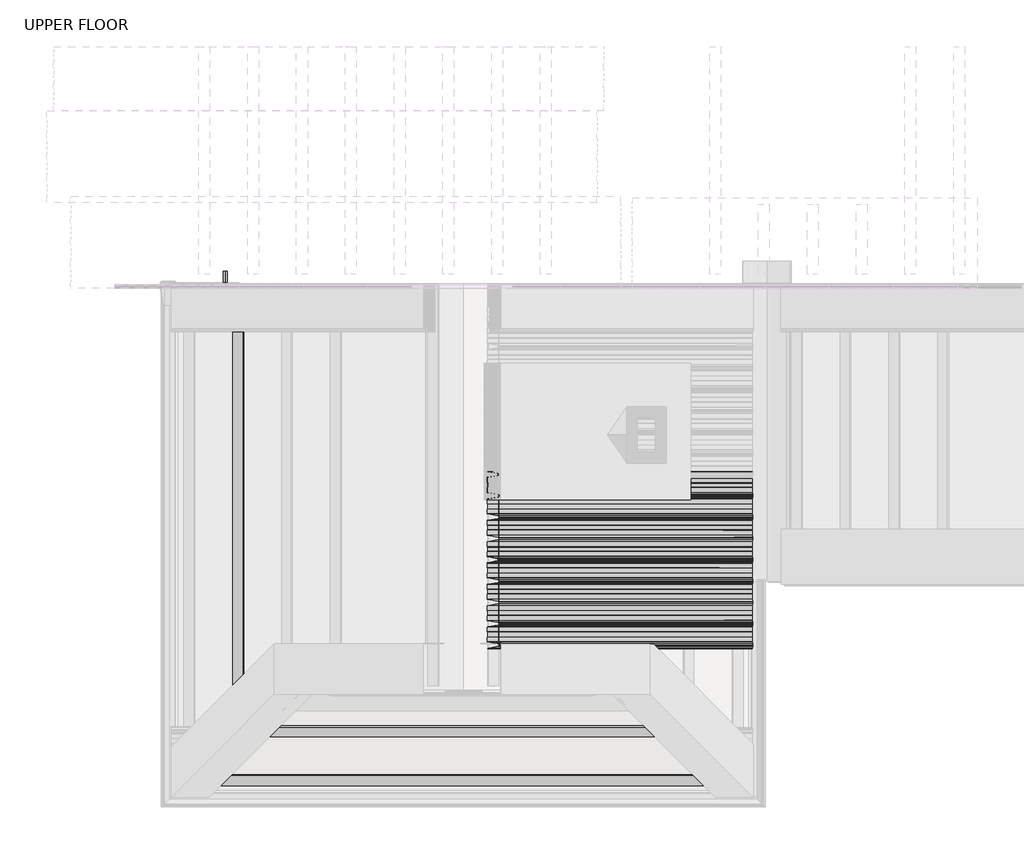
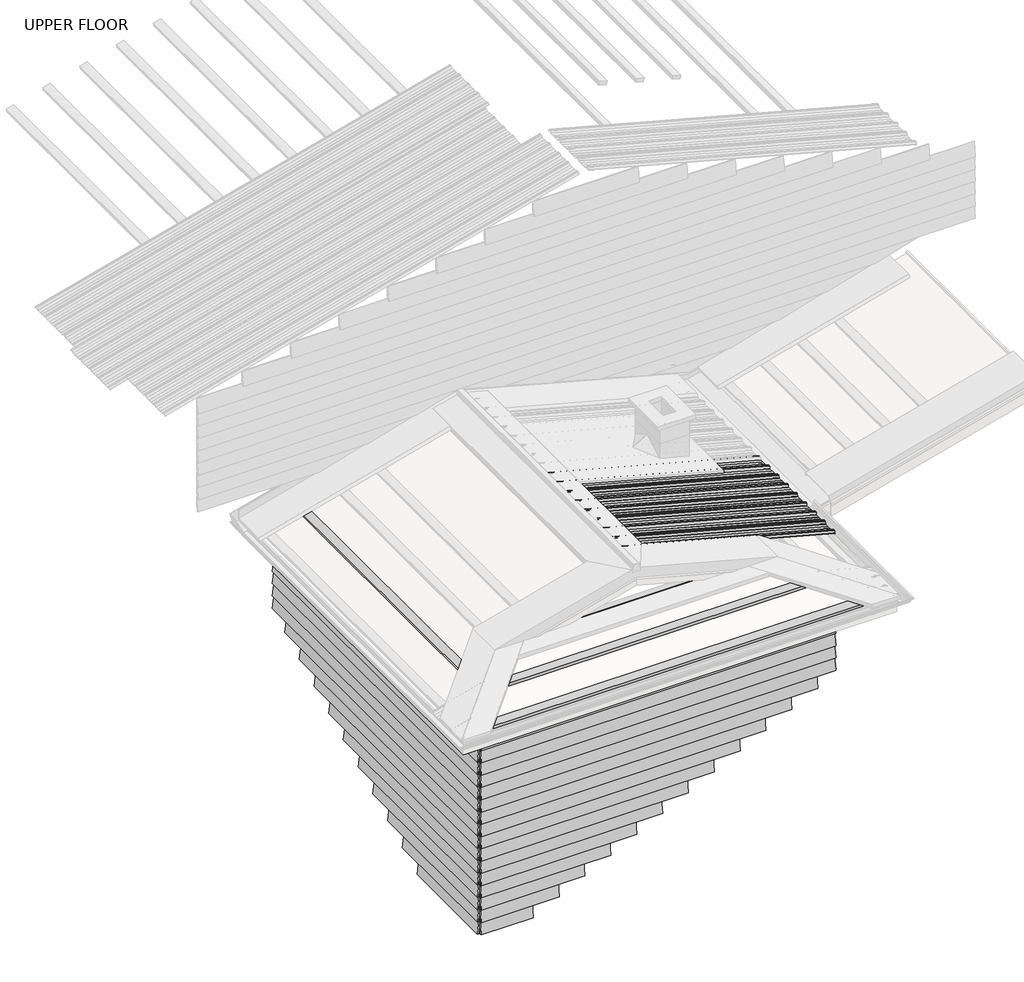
# One storey, part 3 of 8: 40 beams.
"""IFC4 building model written with IfcOpenShell, lengths in millimetres."""

from ifc_helpers import new_model, si_unit, point, frame, frame_2d, origin, place, context, project, spatial, polyline, circle_curve, trimmed, segment, composite_curve, outline, extrude, transform, mapped, element, save
from components import beam_653a1676, beam_0986cd51, beam_6d1ce91c, beam_7c082024, beam_45646a06, beam_4b6b203c, beam_21b49bcd, beam_dbdee737, beam_b49289d9, beam_2cd5924f, beam_da656821, beam_9fa9cc63, beam_07ff9b1a, beam_5f6dbec4, beam_d979e58d, beam_1a6c5b2a, beam_2f0a0f4a, beam_f72c105a, beam_7e5a3d0c, beam_7df44f64, beam_31db28c5, beam_f3d7bc39, beam_6b37ad4d, beam_d161b6fd, timber_gauged_nz_90_x_45_22b23b48, timber_gauged_nz_90_x_45_07e0cd1f, timber_gauged_nz_90_x_45_b5b7cf38

model = new_model("IFC4")

# Units and contexts
model_context = context("Model", 3, world=origin())
ifc_project = project(units=[si_unit("LENGTHUNIT", "METRE", prefix="MILLI")], contexts=[model_context])

# Site, building, storey
site = spatial("IfcSite", under=ifc_project)
building = spatial("IfcBuilding", under=site)
storey = spatial("IfcBuildingStorey", under=building, Name="UPPER FLOOR", Elevation=2700.0)

# Beams
placement = place(None, origin())
element("IfcBeam", 1, ObjectType="3D_Metalcraft T-Rib : 3D_Metalcraft T-Rib", at=placement, inside=storey, context=model_context, shape_type="SweptSolid", body=[
    extrude(outline(composite_curve([segment(polyline([(0.0, 0.0), (41.1765297, -17.232464)]), True, "CONTINUOUS"), segment(trimmed(circle_curve(frame_2d((38.7817106, -20.9335667)), 4.4083239), [point((41.1765297, -17.232464))], [point((43.0853462, -19.9785591))], False, "CARTESIAN"), True, "CONTINUOUS"), segment(polyline([(43.0853462, -19.9785591), (48.0501249, -45.9497705)]), True, "CONTINUOUS"), segment(trimmed(circle_curve(frame_2d((49.8317805, -45.6091809)), 1.8139178), [point((48.0501249, -45.9497705))], [point((48.771325, -47.0808235))], True, "CARTESIAN"), True, "CONTINUOUS"), segment(trimmed(circle_curve(frame_2d((68.2146871, -24.1039222)), 30.0995402), [point((48.771325, -47.0808235))], [point((56.5999877, -51.8722689))], True, "CARTESIAN"), True, "CONTINUOUS"), segment(trimmed(circle_curve(frame_2d((68.2255997, -24.1084891)), 30.0995402), [point((56.5999877, -51.8722689))], [point((65.5078144, -54.0850794))], True, "CARTESIAN"), True, "CONTINUOUS"), segment(trimmed(circle_curve(frame_2d((65.8116479, -52.2967889)), 1.8139178), [point((65.5078144, -54.0850794))], [point((66.8196386, -53.8048513))], True, "CARTESIAN"), True, "CONTINUOUS"), segment(polyline([(66.8196386, -53.8048513), (88.1574709, -39.5426187)]), True, "CONTINUOUS"), segment(trimmed(circle_curve(frame_2d((88.43532, -39.9583106)), 0.5), [point((88.1574709, -39.5426187))], [point((88.7131691, -40.3740027))], False, "CARTESIAN"), True, "CONTINUOUS"), segment(polyline([(88.7131691, -40.3740027), (67.1225767, -54.8051806)]), True, "CONTINUOUS"), segment(trimmed(circle_curve(frame_2d((66.0571023, -53.2111166)), 1.9173616), [point((67.1225767, -54.8051806))], [point((65.8470629, -55.116939))], False, "CARTESIAN"), True, "CONTINUOUS"), segment(trimmed(circle_curve(frame_2d((68.2255997, -24.1084891)), 31.0995402), [point((65.8470629, -55.116939))], [point((56.2139301, -52.7947436))], False, "CARTESIAN"), True, "CONTINUOUS"), segment(trimmed(circle_curve(frame_2d((68.2146871, -24.1039222)), 31.0995402), [point((56.2139301, -52.7947436))], [point((47.7982512, -47.5634735))], False, "CARTESIAN"), True, "CONTINUOUS"), segment(trimmed(circle_curve(frame_2d((49.0082552, -46.0761383)), 1.9173616), [point((47.7982512, -47.5634735))], [point((47.1249957, -46.436151))], False, "CARTESIAN"), True, "CONTINUOUS"), segment(polyline([(47.1249957, -46.436151), (42.1060781, -20.1817343)]), True, "CONTINUOUS"), segment(trimmed(circle_curve(frame_2d((38.7817106, -20.9335667)), 3.4083239), [point((42.1060781, -20.1817343))], [point((40.7028446, -18.1182665))], True, "CARTESIAN"), True, "CONTINUOUS"), segment(polyline([(40.7028446, -18.1182665), (-0.2008129, -1.0), (-4.6628868, -1.0), (-39.4345071, 13.551996), (-42.5665219, 16.730138), (-81.2568943, 32.92214)]), True, "CONTINUOUS"), segment(trimmed(circle_curve(frame_2d((-81.9136301, 29.5776865)), 3.4083239), [point((-81.2568943, 32.92214))], [point((-83.9015601, 32.3462251))], True, "CARTESIAN"), True, "CONTINUOUS"), segment(polyline([(-83.9015601, 32.3462251), (-107.045629, 16.8767016)]), True, "CONTINUOUS"), segment(trimmed(circle_curve(frame_2d((-109.2669983, 20.3574483)), 4.1291741), [point((-107.045629, 16.8767016))], [point((-109.5750829, 16.2397836))], False, "CARTESIAN"), True, "CONTINUOUS"), segment(trimmed(circle_curve(frame_2d((-107.0445899, 49.2424527)), 33.0995402), [point((-109.5750829, 16.2397836))], [point((-119.8283746, 18.7112488))], False, "CARTESIAN"), True, "CONTINUOUS"), segment(trimmed(circle_curve(frame_2d((-107.0555025, 49.2470196)), 33.0995402), [point((-119.8283746, 18.7112488))], [point((-128.7856734, 24.279456))], False, "CARTESIAN"), True, "CONTINUOUS"), segment(trimmed(circle_curve(frame_2d((-126.0690895, 27.3891587)), 4.1291741), [point((-128.7856734, 24.279456))], [point((-130.1074961, 26.5281413))], False, "CARTESIAN"), True, "CONTINUOUS"), segment(polyline([(-130.1074961, 26.5281413), (-135.3344879, 53.8710132)]), True, "CONTINUOUS"), segment(trimmed(circle_curve(frame_2d((-138.7017641, 53.3436396)), 3.4083239), [point((-135.3344879, 53.8710132))], [point((-136.78063, 56.1589398))], True, "CARTESIAN"), True, "CONTINUOUS"), segment(polyline([(-136.78063, 56.1589398), (-175.4710024, 72.3509418), (-179.9330763, 72.3509418), (-214.7046967, 86.9029378), (-217.8367115, 90.0810798), (-256.5270839, 106.2730818)]), True, "CONTINUOUS"), segment(trimmed(circle_curve(frame_2d((-257.1838197, 102.9286282)), 3.4083239), [point((-256.5270839, 106.2730818))], [point((-259.1717496, 105.6971669))], True, "CARTESIAN"), True, "CONTINUOUS"), segment(polyline([(-259.1717496, 105.6971669), (-282.3158186, 90.2276434)]), True, "CONTINUOUS"), segment(trimmed(circle_curve(frame_2d((-284.5371879, 93.7083901)), 4.1291741), [point((-282.3158186, 90.2276434))], [point((-284.8452724, 89.5907254))], False, "CARTESIAN"), True, "CONTINUOUS"), segment(trimmed(circle_curve(frame_2d((-282.3147794, 122.5933945)), 33.0995402), [point((-284.8452724, 89.5907254))], [point((-295.0985641, 92.0621906))], False, "CARTESIAN"), True, "CONTINUOUS"), segment(trimmed(circle_curve(frame_2d((-282.325692, 122.5979614)), 33.0995402), [point((-295.0985641, 92.0621906))], [point((-304.0558629, 97.6303978))], False, "CARTESIAN"), True, "CONTINUOUS"), segment(trimmed(circle_curve(frame_2d((-301.3392791, 100.7401005)), 4.1291741), [point((-304.0558629, 97.6303978))], [point((-305.3776856, 99.8790831))], False, "CARTESIAN"), True, "CONTINUOUS"), segment(polyline([(-305.3776856, 99.8790831), (-310.6046774, 127.221955)]), True, "CONTINUOUS"), segment(trimmed(circle_curve(frame_2d((-313.9719536, 126.6945814)), 3.4083239), [point((-310.6046774, 127.221955))], [point((-312.0508195, 129.5098816))], True, "CARTESIAN"), True, "CONTINUOUS"), segment(polyline([(-312.0508195, 129.5098816), (-350.7411919, 145.7018835), (-355.2032658, 145.7018836), (-389.9748862, 160.2538796), (-393.106901, 163.4320216), (-431.7972734, 179.6240236)]), True, "CONTINUOUS"), segment(trimmed(circle_curve(frame_2d((-432.4540092, 176.27957)), 3.4083239), [point((-431.7972734, 179.6240236))], [point((-434.4419392, 179.0481087))], True, "CARTESIAN"), True, "CONTINUOUS"), segment(polyline([(-434.4419392, 179.0481087), (-457.5860081, 163.5785852)]), True, "CONTINUOUS"), segment(trimmed(circle_curve(frame_2d((-459.8073774, 167.0593319)), 4.1291741), [point((-457.5860081, 163.5785852))], [point((-460.1154619, 162.9416672))], False, "CARTESIAN"), True, "CONTINUOUS"), segment(trimmed(circle_curve(frame_2d((-457.5849689, 195.9443363)), 33.0995402), [point((-460.1154619, 162.9416672))], [point((-470.3687537, 165.4131324))], False, "CARTESIAN"), True, "CONTINUOUS"), segment(trimmed(circle_curve(frame_2d((-457.5958815, 195.9489032)), 33.0995402), [point((-470.3687537, 165.4131324))], [point((-479.3260524, 170.9813396))], False, "CARTESIAN"), True, "CONTINUOUS"), segment(trimmed(circle_curve(frame_2d((-476.6094686, 174.0910423)), 4.1291741), [point((-479.3260524, 170.9813396))], [point((-480.6478751, 173.2300249))], False, "CARTESIAN"), True, "CONTINUOUS"), segment(polyline([(-480.6478751, 173.2300249), (-485.874867, 200.5728968)]), True, "CONTINUOUS"), segment(trimmed(circle_curve(frame_2d((-489.2421431, 200.0455231)), 3.4083239), [point((-485.874867, 200.5728968))], [point((-487.3210091, 202.8608234))], True, "CARTESIAN"), True, "CONTINUOUS"), segment(polyline([(-487.3210091, 202.8608234), (-526.0113815, 219.0528253), (-530.4734554, 219.0528254), (-565.2450757, 233.6048214), (-568.3770905, 236.7829634), (-607.0674629, 252.9749654)]), True, "CONTINUOUS"), segment(trimmed(circle_curve(frame_2d((-607.7241987, 249.6305118)), 3.4083239), [point((-607.0674629, 252.9749654))], [point((-609.7121287, 252.3990505))], True, "CARTESIAN"), True, "CONTINUOUS"), segment(polyline([(-609.7121287, 252.3990505), (-632.8561976, 236.929527)]), True, "CONTINUOUS"), segment(trimmed(circle_curve(frame_2d((-635.0775669, 240.4102737)), 4.1291741), [point((-632.8561976, 236.929527))], [point((-635.3856515, 236.292609))], False, "CARTESIAN"), True, "CONTINUOUS"), segment(trimmed(circle_curve(frame_2d((-632.8551585, 269.2952781)), 33.0995402), [point((-635.3856515, 236.292609))], [point((-645.6389433, 238.7640742))], False, "CARTESIAN"), True, "CONTINUOUS"), segment(trimmed(circle_curve(frame_2d((-632.8660711, 269.299845)), 33.0995402), [point((-645.6389433, 238.7640742))], [point((-654.596242, 244.3322814))], False, "CARTESIAN"), True, "CONTINUOUS"), segment(trimmed(circle_curve(frame_2d((-651.8796581, 247.441984)), 4.1291741), [point((-654.596242, 244.3322814))], [point((-655.9180648, 246.5809668))], False, "CARTESIAN"), True, "CONTINUOUS"), segment(polyline([(-655.9180648, 246.5809668), (-660.7374633, 271.7916806)]), True, "CONTINUOUS"), segment(trimmed(circle_curve(frame_2d((-664.0618307, 271.0398477)), 3.4083239), [point((-660.7374633, 271.7916806))], [point((-662.1406965, 273.855148))], True, "CARTESIAN"), True, "CONTINUOUS"), segment(polyline([(-662.1406965, 273.855148), (-665.4188428, 275.227059)]), True, "CONTINUOUS"), segment(trimmed(circle_curve(frame_2d((-665.225814, 275.6882964)), 0.5), [point((-665.4188428, 275.227059))], [point((-665.0327852, 276.1495337))], False, "CARTESIAN"), True, "CONTINUOUS"), segment(polyline([(-665.0327852, 276.1495337), (-661.6670116, 274.7409504)]), True, "CONTINUOUS"), segment(trimmed(circle_curve(frame_2d((-664.0618307, 271.0398477)), 4.4083239), [point((-661.6670116, 274.7409504))], [point((-659.7581951, 271.994856))], False, "CARTESIAN"), True, "CONTINUOUS"), segment(polyline([(-659.7581951, 271.994856), (-654.9379765, 246.7798514)]), True, "CONTINUOUS"), segment(trimmed(circle_curve(frame_2d((-651.8796581, 247.441984)), 3.1291741), [point((-654.9379765, 246.7798514))], [point((-653.9389937, 245.0859562))], True, "CARTESIAN"), True, "CONTINUOUS"), segment(trimmed(circle_curve(frame_2d((-632.8660711, 269.299845)), 32.0995402), [point((-653.9389937, 245.0859562))], [point((-645.2528857, 239.6865489))], True, "CARTESIAN"), True, "CONTINUOUS"), segment(trimmed(circle_curve(frame_2d((-632.8551585, 269.2952781)), 32.0995402), [point((-645.2528857, 239.6865489))], [point((-635.3101766, 237.2897571))], True, "CARTESIAN"), True, "CONTINUOUS"), segment(trimmed(circle_curve(frame_2d((-635.0775669, 240.4102737)), 3.1291741), [point((-635.3101766, 237.2897571))], [point((-633.4024833, 237.7672024))], True, "CARTESIAN"), True, "CONTINUOUS"), segment(polyline([(-633.4024833, 237.7672024), (-610.0647921, 253.3661432)]), True, "CONTINUOUS"), segment(trimmed(circle_curve(frame_2d((-607.7241987, 249.6305118)), 4.4083239), [point((-610.0647921, 253.3661432))], [point((-606.7690327, 253.9341123))], False, "CARTESIAN"), True, "CONTINUOUS"), segment(polyline([(-606.7690327, 253.9341123), (-567.8057882, 237.6279128), (-564.6737734, 234.4497707), (-530.2726425, 220.0528253), (-525.8105686, 220.0528254), (-486.847324, 203.7466258)]), True, "CONTINUOUS"), segment(trimmed(circle_curve(frame_2d((-489.2421431, 200.0455231)), 4.4083239), [point((-486.847324, 203.7466258))], [point((-484.9385075, 201.0005307))], False, "CARTESIAN"), True, "CONTINUOUS"), segment(polyline([(-484.9385075, 201.0005307), (-479.6677869, 173.4289097)]), True, "CONTINUOUS"), segment(trimmed(circle_curve(frame_2d((-476.6094686, 174.0910423)), 3.1291741), [point((-479.6677869, 173.4289097))], [point((-478.6688042, 171.7350144))], True, "CARTESIAN"), True, "CONTINUOUS"), segment(trimmed(circle_curve(frame_2d((-457.5958815, 195.9489032)), 32.0995402), [point((-478.6688042, 171.7350144))], [point((-469.9826961, 166.3356071))], True, "CARTESIAN"), True, "CONTINUOUS"), segment(trimmed(circle_curve(frame_2d((-457.5849689, 195.9443363)), 32.0995402), [point((-469.9826961, 166.3356071))], [point((-460.0399871, 163.9388154))], True, "CARTESIAN"), True, "CONTINUOUS"), segment(trimmed(circle_curve(frame_2d((-459.8073774, 167.0593319)), 3.1291741), [point((-460.0399871, 163.9388154))], [point((-458.1322938, 164.4162606))], True, "CARTESIAN"), True, "CONTINUOUS"), segment(polyline([(-458.1322938, 164.4162606), (-434.7946026, 180.0152014)]), True, "CONTINUOUS"), segment(trimmed(circle_curve(frame_2d((-432.4540092, 176.27957)), 4.4083239), [point((-434.7946026, 180.0152014))], [point((-431.4988431, 180.5831705))], False, "CARTESIAN"), True, "CONTINUOUS"), segment(polyline([(-431.4988431, 180.5831705), (-392.5355987, 164.276971), (-389.4035839, 161.0988289), (-355.002453, 146.7018835), (-350.5403791, 146.7018836), (-311.5771345, 130.395684)]), True, "CONTINUOUS"), segment(trimmed(circle_curve(frame_2d((-313.9719536, 126.6945814)), 4.4083239), [point((-311.5771345, 130.395684))], [point((-309.6683179, 127.649589))], False, "CARTESIAN"), True, "CONTINUOUS"), segment(polyline([(-309.6683179, 127.649589), (-304.3975974, 100.0779679)]), True, "CONTINUOUS"), segment(trimmed(circle_curve(frame_2d((-301.3392791, 100.7401005)), 3.1291741), [point((-304.3975974, 100.0779679))], [point((-303.3986147, 98.3840726))], True, "CARTESIAN"), True, "CONTINUOUS"), segment(trimmed(circle_curve(frame_2d((-282.325692, 122.5979614)), 32.0995402), [point((-303.3986147, 98.3840726))], [point((-294.7125065, 92.9846653))], True, "CARTESIAN"), True, "CONTINUOUS"), segment(trimmed(circle_curve(frame_2d((-282.3147794, 122.5933945)), 32.0995402), [point((-294.7125065, 92.9846653))], [point((-284.7697976, 90.5878736))], True, "CARTESIAN"), True, "CONTINUOUS"), segment(trimmed(circle_curve(frame_2d((-284.5371879, 93.7083901)), 3.1291741), [point((-284.7697976, 90.5878736))], [point((-282.8621043, 91.0653188))], True, "CARTESIAN"), True, "CONTINUOUS"), segment(polyline([(-282.8621043, 91.0653188), (-259.5244131, 106.6642596)]), True, "CONTINUOUS"), segment(trimmed(circle_curve(frame_2d((-257.1838197, 102.9286282)), 4.4083239), [point((-259.5244131, 106.6642596))], [point((-256.2286536, 107.2322287))], False, "CARTESIAN"), True, "CONTINUOUS"), segment(polyline([(-256.2286536, 107.2322287), (-217.2654091, 90.9260292), (-214.1333944, 87.7478871), (-179.7322635, 73.3509417), (-175.2701895, 73.3509418), (-136.306945, 57.0447423)]), True, "CONTINUOUS"), segment(trimmed(circle_curve(frame_2d((-138.7017641, 53.3436396)), 4.4083239), [point((-136.306945, 57.0447423))], [point((-134.3981284, 54.2986472))], False, "CARTESIAN"), True, "CONTINUOUS"), segment(polyline([(-134.3981284, 54.2986472), (-129.1274079, 26.7270261)]), True, "CONTINUOUS"), segment(trimmed(circle_curve(frame_2d((-126.0690895, 27.3891587)), 3.1291741), [point((-129.1274079, 26.7270261))], [point((-128.1284251, 25.0331308))], True, "CARTESIAN"), True, "CONTINUOUS"), segment(trimmed(circle_curve(frame_2d((-107.0555025, 49.2470196)), 32.0995402), [point((-128.1284251, 25.0331308))], [point((-119.442317, 19.6337235))], True, "CARTESIAN"), True, "CONTINUOUS"), segment(trimmed(circle_curve(frame_2d((-107.0445899, 49.2424527)), 32.0995402), [point((-119.442317, 19.6337235))], [point((-109.4996081, 17.2369318))], True, "CARTESIAN"), True, "CONTINUOUS"), segment(trimmed(circle_curve(frame_2d((-109.2669983, 20.3574483)), 3.1291741), [point((-109.4996081, 17.2369318))], [point((-107.5919148, 17.714377))], True, "CARTESIAN"), True, "CONTINUOUS"), segment(polyline([(-107.5919148, 17.714377), (-84.2542235, 33.3133178)]), True, "CONTINUOUS"), segment(trimmed(circle_curve(frame_2d((-81.9136301, 29.5776865)), 4.4083239), [point((-84.2542235, 33.3133178))], [point((-80.9584641, 33.8812869))], False, "CARTESIAN"), True, "CONTINUOUS"), segment(polyline([(-80.9584641, 33.8812869), (-41.9952196, 17.5750874), (-38.8632048, 14.3969453), (-4.4620739, -1e-07), (0.0, 0.0)]), True, "CONTINUOUS")], self_intersect=False)), frame((-11190.2847188, -24608.4241842, 3266.5991596), z_axis=(-0.9659258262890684, 0.0, 0.25881904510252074), x_axis=(-0.09991905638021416, 0.9224746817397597, -0.3729029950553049)), (0.0, 0.0, 1.0), 2590.2025973),
])
element("IfcBeam", 2, ObjectType="3D_Metalcraft T-Rib : 3D_Metalcraft T-Rib", at=placement, inside=storey, context=model_context, shape_type="SweptSolid", body=[
    extrude(outline(composite_curve([segment(polyline([(0.0, 0.0), (41.1765297, -17.232464)]), True, "CONTINUOUS"), segment(trimmed(circle_curve(frame_2d((38.7817106, -20.9335667)), 4.4083239), [point((41.1765297, -17.232464))], [point((43.0853462, -19.9785591))], False, "CARTESIAN"), True, "CONTINUOUS"), segment(polyline([(43.0853462, -19.9785591), (48.0501249, -45.9497705)]), True, "CONTINUOUS"), segment(trimmed(circle_curve(frame_2d((49.8317805, -45.6091809)), 1.8139178), [point((48.0501249, -45.9497705))], [point((48.771325, -47.0808235))], True, "CARTESIAN"), True, "CONTINUOUS"), segment(trimmed(circle_curve(frame_2d((68.2146871, -24.1039222)), 30.0995402), [point((48.771325, -47.0808235))], [point((56.5999877, -51.8722689))], True, "CARTESIAN"), True, "CONTINUOUS"), segment(trimmed(circle_curve(frame_2d((68.2255997, -24.1084891)), 30.0995402), [point((56.5999877, -51.8722689))], [point((65.5078144, -54.0850794))], True, "CARTESIAN"), True, "CONTINUOUS"), segment(trimmed(circle_curve(frame_2d((65.8116479, -52.2967889)), 1.8139178), [point((65.5078144, -54.0850794))], [point((66.8196386, -53.8048513))], True, "CARTESIAN"), True, "CONTINUOUS"), segment(polyline([(66.8196386, -53.8048513), (88.1574709, -39.5426187)]), True, "CONTINUOUS"), segment(trimmed(circle_curve(frame_2d((88.43532, -39.9583106)), 0.5), [point((88.1574709, -39.5426187))], [point((88.7131691, -40.3740027))], False, "CARTESIAN"), True, "CONTINUOUS"), segment(polyline([(88.7131691, -40.3740027), (67.1225767, -54.8051806)]), True, "CONTINUOUS"), segment(trimmed(circle_curve(frame_2d((66.0571023, -53.2111166)), 1.9173616), [point((67.1225767, -54.8051806))], [point((65.8470629, -55.116939))], False, "CARTESIAN"), True, "CONTINUOUS"), segment(trimmed(circle_curve(frame_2d((68.2255997, -24.1084891)), 31.0995402), [point((65.8470629, -55.116939))], [point((56.2139301, -52.7947436))], False, "CARTESIAN"), True, "CONTINUOUS"), segment(trimmed(circle_curve(frame_2d((68.2146871, -24.1039222)), 31.0995402), [point((56.2139301, -52.7947436))], [point((47.7982512, -47.5634735))], False, "CARTESIAN"), True, "CONTINUOUS"), segment(trimmed(circle_curve(frame_2d((49.0082552, -46.0761383)), 1.9173616), [point((47.7982512, -47.5634735))], [point((47.1249957, -46.436151))], False, "CARTESIAN"), True, "CONTINUOUS"), segment(polyline([(47.1249957, -46.436151), (42.1060781, -20.1817343)]), True, "CONTINUOUS"), segment(trimmed(circle_curve(frame_2d((38.7817106, -20.9335667)), 3.4083239), [point((42.1060781, -20.1817343))], [point((40.7028446, -18.1182665))], True, "CARTESIAN"), True, "CONTINUOUS"), segment(polyline([(40.7028446, -18.1182665), (-0.2008129, -1.0), (-4.6628868, -1.0), (-39.4345071, 13.551996), (-42.5665219, 16.730138), (-81.2568943, 32.92214)]), True, "CONTINUOUS"), segment(trimmed(circle_curve(frame_2d((-81.9136301, 29.5776865)), 3.4083239), [point((-81.2568943, 32.92214))], [point((-83.9015601, 32.3462251))], True, "CARTESIAN"), True, "CONTINUOUS"), segment(polyline([(-83.9015601, 32.3462251), (-107.045629, 16.8767016)]), True, "CONTINUOUS"), segment(trimmed(circle_curve(frame_2d((-109.2669983, 20.3574483)), 4.1291741), [point((-107.045629, 16.8767016))], [point((-109.5750829, 16.2397836))], False, "CARTESIAN"), True, "CONTINUOUS"), segment(trimmed(circle_curve(frame_2d((-107.0445899, 49.2424527)), 33.0995402), [point((-109.5750829, 16.2397836))], [point((-119.8283746, 18.7112488))], False, "CARTESIAN"), True, "CONTINUOUS"), segment(trimmed(circle_curve(frame_2d((-107.0555025, 49.2470196)), 33.0995402), [point((-119.8283746, 18.7112488))], [point((-128.7856734, 24.279456))], False, "CARTESIAN"), True, "CONTINUOUS"), segment(trimmed(circle_curve(frame_2d((-126.0690895, 27.3891587)), 4.1291741), [point((-128.7856734, 24.279456))], [point((-130.1074961, 26.5281413))], False, "CARTESIAN"), True, "CONTINUOUS"), segment(polyline([(-130.1074961, 26.5281413), (-135.3344879, 53.8710132)]), True, "CONTINUOUS"), segment(trimmed(circle_curve(frame_2d((-138.7017641, 53.3436396)), 3.4083239), [point((-135.3344879, 53.8710132))], [point((-136.78063, 56.1589398))], True, "CARTESIAN"), True, "CONTINUOUS"), segment(polyline([(-136.78063, 56.1589398), (-175.4710024, 72.3509418), (-179.9330763, 72.3509418), (-214.7046967, 86.9029378), (-217.8367115, 90.0810798), (-256.5270839, 106.2730818)]), True, "CONTINUOUS"), segment(trimmed(circle_curve(frame_2d((-257.1838197, 102.9286282)), 3.4083239), [point((-256.5270839, 106.2730818))], [point((-259.1717496, 105.6971669))], True, "CARTESIAN"), True, "CONTINUOUS"), segment(polyline([(-259.1717496, 105.6971669), (-282.3158186, 90.2276434)]), True, "CONTINUOUS"), segment(trimmed(circle_curve(frame_2d((-284.5371879, 93.7083901)), 4.1291741), [point((-282.3158186, 90.2276434))], [point((-284.8452724, 89.5907254))], False, "CARTESIAN"), True, "CONTINUOUS"), segment(trimmed(circle_curve(frame_2d((-282.3147794, 122.5933945)), 33.0995402), [point((-284.8452724, 89.5907254))], [point((-295.0985641, 92.0621906))], False, "CARTESIAN"), True, "CONTINUOUS"), segment(trimmed(circle_curve(frame_2d((-282.325692, 122.5979614)), 33.0995402), [point((-295.0985641, 92.0621906))], [point((-304.0558629, 97.6303978))], False, "CARTESIAN"), True, "CONTINUOUS"), segment(trimmed(circle_curve(frame_2d((-301.3392791, 100.7401005)), 4.1291741), [point((-304.0558629, 97.6303978))], [point((-305.3776856, 99.8790831))], False, "CARTESIAN"), True, "CONTINUOUS"), segment(polyline([(-305.3776856, 99.8790831), (-310.6046774, 127.221955)]), True, "CONTINUOUS"), segment(trimmed(circle_curve(frame_2d((-313.9719536, 126.6945814)), 3.4083239), [point((-310.6046774, 127.221955))], [point((-312.0508195, 129.5098816))], True, "CARTESIAN"), True, "CONTINUOUS"), segment(polyline([(-312.0508195, 129.5098816), (-350.7411919, 145.7018835), (-355.2032658, 145.7018836), (-389.9748862, 160.2538796), (-393.106901, 163.4320216), (-431.7972734, 179.6240236)]), True, "CONTINUOUS"), segment(trimmed(circle_curve(frame_2d((-432.4540092, 176.27957)), 3.4083239), [point((-431.7972734, 179.6240236))], [point((-434.4419392, 179.0481087))], True, "CARTESIAN"), True, "CONTINUOUS"), segment(polyline([(-434.4419392, 179.0481087), (-457.5860081, 163.5785852)]), True, "CONTINUOUS"), segment(trimmed(circle_curve(frame_2d((-459.8073774, 167.0593319)), 4.1291741), [point((-457.5860081, 163.5785852))], [point((-460.1154619, 162.9416672))], False, "CARTESIAN"), True, "CONTINUOUS"), segment(trimmed(circle_curve(frame_2d((-457.5849689, 195.9443363)), 33.0995402), [point((-460.1154619, 162.9416672))], [point((-470.3687537, 165.4131324))], False, "CARTESIAN"), True, "CONTINUOUS"), segment(trimmed(circle_curve(frame_2d((-457.5958815, 195.9489032)), 33.0995402), [point((-470.3687537, 165.4131324))], [point((-479.3260524, 170.9813396))], False, "CARTESIAN"), True, "CONTINUOUS"), segment(trimmed(circle_curve(frame_2d((-476.6094686, 174.0910423)), 4.1291741), [point((-479.3260524, 170.9813396))], [point((-480.6478751, 173.2300249))], False, "CARTESIAN"), True, "CONTINUOUS"), segment(polyline([(-480.6478751, 173.2300249), (-485.874867, 200.5728968)]), True, "CONTINUOUS"), segment(trimmed(circle_curve(frame_2d((-489.2421431, 200.0455231)), 3.4083239), [point((-485.874867, 200.5728968))], [point((-487.3210091, 202.8608234))], True, "CARTESIAN"), True, "CONTINUOUS"), segment(polyline([(-487.3210091, 202.8608234), (-526.0113815, 219.0528253), (-530.4734554, 219.0528254), (-565.2450757, 233.6048214), (-568.3770905, 236.7829634), (-607.0674629, 252.9749654)]), True, "CONTINUOUS"), segment(trimmed(circle_curve(frame_2d((-607.7241987, 249.6305118)), 3.4083239), [point((-607.0674629, 252.9749654))], [point((-609.7121287, 252.3990505))], True, "CARTESIAN"), True, "CONTINUOUS"), segment(polyline([(-609.7121287, 252.3990505), (-632.8561976, 236.929527)]), True, "CONTINUOUS"), segment(trimmed(circle_curve(frame_2d((-635.0775669, 240.4102737)), 4.1291741), [point((-632.8561976, 236.929527))], [point((-635.3856515, 236.292609))], False, "CARTESIAN"), True, "CONTINUOUS"), segment(trimmed(circle_curve(frame_2d((-632.8551585, 269.2952781)), 33.0995402), [point((-635.3856515, 236.292609))], [point((-645.6389433, 238.7640742))], False, "CARTESIAN"), True, "CONTINUOUS"), segment(trimmed(circle_curve(frame_2d((-632.8660711, 269.299845)), 33.0995402), [point((-645.6389433, 238.7640742))], [point((-654.596242, 244.3322814))], False, "CARTESIAN"), True, "CONTINUOUS"), segment(trimmed(circle_curve(frame_2d((-651.8796581, 247.441984)), 4.1291741), [point((-654.596242, 244.3322814))], [point((-655.9180648, 246.5809668))], False, "CARTESIAN"), True, "CONTINUOUS"), segment(polyline([(-655.9180648, 246.5809668), (-660.7374633, 271.7916806)]), True, "CONTINUOUS"), segment(trimmed(circle_curve(frame_2d((-664.0618307, 271.0398477)), 3.4083239), [point((-660.7374633, 271.7916806))], [point((-662.1406965, 273.855148))], True, "CARTESIAN"), True, "CONTINUOUS"), segment(polyline([(-662.1406965, 273.855148), (-665.4188428, 275.227059)]), True, "CONTINUOUS"), segment(trimmed(circle_curve(frame_2d((-665.225814, 275.6882964)), 0.5), [point((-665.4188428, 275.227059))], [point((-665.0327852, 276.1495337))], False, "CARTESIAN"), True, "CONTINUOUS"), segment(polyline([(-665.0327852, 276.1495337), (-661.6670116, 274.7409504)]), True, "CONTINUOUS"), segment(trimmed(circle_curve(frame_2d((-664.0618307, 271.0398477)), 4.4083239), [point((-661.6670116, 274.7409504))], [point((-659.7581951, 271.994856))], False, "CARTESIAN"), True, "CONTINUOUS"), segment(polyline([(-659.7581951, 271.994856), (-654.9379765, 246.7798514)]), True, "CONTINUOUS"), segment(trimmed(circle_curve(frame_2d((-651.8796581, 247.441984)), 3.1291741), [point((-654.9379765, 246.7798514))], [point((-653.9389937, 245.0859562))], True, "CARTESIAN"), True, "CONTINUOUS"), segment(trimmed(circle_curve(frame_2d((-632.8660711, 269.299845)), 32.0995402), [point((-653.9389937, 245.0859562))], [point((-645.2528857, 239.6865489))], True, "CARTESIAN"), True, "CONTINUOUS"), segment(trimmed(circle_curve(frame_2d((-632.8551585, 269.2952781)), 32.0995402), [point((-645.2528857, 239.6865489))], [point((-635.3101766, 237.2897571))], True, "CARTESIAN"), True, "CONTINUOUS"), segment(trimmed(circle_curve(frame_2d((-635.0775669, 240.4102737)), 3.1291741), [point((-635.3101766, 237.2897571))], [point((-633.4024833, 237.7672024))], True, "CARTESIAN"), True, "CONTINUOUS"), segment(polyline([(-633.4024833, 237.7672024), (-610.0647921, 253.3661432)]), True, "CONTINUOUS"), segment(trimmed(circle_curve(frame_2d((-607.7241987, 249.6305118)), 4.4083239), [point((-610.0647921, 253.3661432))], [point((-606.7690327, 253.9341123))], False, "CARTESIAN"), True, "CONTINUOUS"), segment(polyline([(-606.7690327, 253.9341123), (-567.8057882, 237.6279128), (-564.6737734, 234.4497707), (-530.2726425, 220.0528253), (-525.8105686, 220.0528254), (-486.847324, 203.7466258)]), True, "CONTINUOUS"), segment(trimmed(circle_curve(frame_2d((-489.2421431, 200.0455231)), 4.4083239), [point((-486.847324, 203.7466258))], [point((-484.9385075, 201.0005307))], False, "CARTESIAN"), True, "CONTINUOUS"), segment(polyline([(-484.9385075, 201.0005307), (-479.6677869, 173.4289097)]), True, "CONTINUOUS"), segment(trimmed(circle_curve(frame_2d((-476.6094686, 174.0910423)), 3.1291741), [point((-479.6677869, 173.4289097))], [point((-478.6688042, 171.7350144))], True, "CARTESIAN"), True, "CONTINUOUS"), segment(trimmed(circle_curve(frame_2d((-457.5958815, 195.9489032)), 32.0995402), [point((-478.6688042, 171.7350144))], [point((-469.9826961, 166.3356071))], True, "CARTESIAN"), True, "CONTINUOUS"), segment(trimmed(circle_curve(frame_2d((-457.5849689, 195.9443363)), 32.0995402), [point((-469.9826961, 166.3356071))], [point((-460.0399871, 163.9388154))], True, "CARTESIAN"), True, "CONTINUOUS"), segment(trimmed(circle_curve(frame_2d((-459.8073774, 167.0593319)), 3.1291741), [point((-460.0399871, 163.9388154))], [point((-458.1322938, 164.4162606))], True, "CARTESIAN"), True, "CONTINUOUS"), segment(polyline([(-458.1322938, 164.4162606), (-434.7946026, 180.0152014)]), True, "CONTINUOUS"), segment(trimmed(circle_curve(frame_2d((-432.4540092, 176.27957)), 4.4083239), [point((-434.7946026, 180.0152014))], [point((-431.4988431, 180.5831705))], False, "CARTESIAN"), True, "CONTINUOUS"), segment(polyline([(-431.4988431, 180.5831705), (-392.5355987, 164.276971), (-389.4035839, 161.0988289), (-355.002453, 146.7018835), (-350.5403791, 146.7018836), (-311.5771345, 130.395684)]), True, "CONTINUOUS"), segment(trimmed(circle_curve(frame_2d((-313.9719536, 126.6945814)), 4.4083239), [point((-311.5771345, 130.395684))], [point((-309.6683179, 127.649589))], False, "CARTESIAN"), True, "CONTINUOUS"), segment(polyline([(-309.6683179, 127.649589), (-304.3975974, 100.0779679)]), True, "CONTINUOUS"), segment(trimmed(circle_curve(frame_2d((-301.3392791, 100.7401005)), 3.1291741), [point((-304.3975974, 100.0779679))], [point((-303.3986147, 98.3840726))], True, "CARTESIAN"), True, "CONTINUOUS"), segment(trimmed(circle_curve(frame_2d((-282.325692, 122.5979614)), 32.0995402), [point((-303.3986147, 98.3840726))], [point((-294.7125065, 92.9846653))], True, "CARTESIAN"), True, "CONTINUOUS"), segment(trimmed(circle_curve(frame_2d((-282.3147794, 122.5933945)), 32.0995402), [point((-294.7125065, 92.9846653))], [point((-284.7697976, 90.5878736))], True, "CARTESIAN"), True, "CONTINUOUS"), segment(trimmed(circle_curve(frame_2d((-284.5371879, 93.7083901)), 3.1291741), [point((-284.7697976, 90.5878736))], [point((-282.8621043, 91.0653188))], True, "CARTESIAN"), True, "CONTINUOUS"), segment(polyline([(-282.8621043, 91.0653188), (-259.5244131, 106.6642596)]), True, "CONTINUOUS"), segment(trimmed(circle_curve(frame_2d((-257.1838197, 102.9286282)), 4.4083239), [point((-259.5244131, 106.6642596))], [point((-256.2286536, 107.2322287))], False, "CARTESIAN"), True, "CONTINUOUS"), segment(polyline([(-256.2286536, 107.2322287), (-217.2654091, 90.9260292), (-214.1333944, 87.7478871), (-179.7322635, 73.3509417), (-175.2701895, 73.3509418), (-136.306945, 57.0447423)]), True, "CONTINUOUS"), segment(trimmed(circle_curve(frame_2d((-138.7017641, 53.3436396)), 4.4083239), [point((-136.306945, 57.0447423))], [point((-134.3981284, 54.2986472))], False, "CARTESIAN"), True, "CONTINUOUS"), segment(polyline([(-134.3981284, 54.2986472), (-129.1274079, 26.7270261)]), True, "CONTINUOUS"), segment(trimmed(circle_curve(frame_2d((-126.0690895, 27.3891587)), 3.1291741), [point((-129.1274079, 26.7270261))], [point((-128.1284251, 25.0331308))], True, "CARTESIAN"), True, "CONTINUOUS"), segment(trimmed(circle_curve(frame_2d((-107.0555025, 49.2470196)), 32.0995402), [point((-128.1284251, 25.0331308))], [point((-119.442317, 19.6337235))], True, "CARTESIAN"), True, "CONTINUOUS"), segment(trimmed(circle_curve(frame_2d((-107.0445899, 49.2424527)), 32.0995402), [point((-119.442317, 19.6337235))], [point((-109.4996081, 17.2369318))], True, "CARTESIAN"), True, "CONTINUOUS"), segment(trimmed(circle_curve(frame_2d((-109.2669983, 20.3574483)), 3.1291741), [point((-109.4996081, 17.2369318))], [point((-107.5919148, 17.714377))], True, "CARTESIAN"), True, "CONTINUOUS"), segment(polyline([(-107.5919148, 17.714377), (-84.2542235, 33.3133178)]), True, "CONTINUOUS"), segment(trimmed(circle_curve(frame_2d((-81.9136301, 29.5776865)), 4.4083239), [point((-84.2542235, 33.3133178))], [point((-80.9584641, 33.8812869))], False, "CARTESIAN"), True, "CONTINUOUS"), segment(polyline([(-80.9584641, 33.8812869), (-41.9952196, 17.5750874), (-38.8632048, 14.3969453), (-4.4620739, -1e-07), (0.0, 0.0)]), True, "CONTINUOUS")], self_intersect=False)), frame((-11190.2847188, -23848.4241842, 3266.5991596), z_axis=(-0.9659258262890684, 0.0, 0.25881904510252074), x_axis=(-0.09991905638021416, 0.9224746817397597, -0.3729029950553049)), (0.0, 0.0, 1.0), 2590.2025973),
])
beam_shape = beam_653a1676(model_context)
element("IfcBeam", 3, ObjectType="weatherboad : weatherboad", at=placement, inside=storey, context=model_context, shape_type="MappedRepresentation", body=[
    mapped(beam_shape, transform((-15560.5898705, -26154.3187598, 586.4267859), x_axis=(1.0, 0.0, 0.0), y_axis=(0.0, 0.0, -1.0), z_axis=(0.0, 1.0, 0.0))),
])
beam_2_shape = beam_0986cd51(model_context)
element("IfcBeam", 4, ObjectType="weatherboad : weatherboad", at=placement, inside=storey, context=model_context, shape_type="MappedRepresentation", body=[
    mapped(beam_2_shape, transform((-15407.7261147, -26154.3187598, 739.9267859), x_axis=(1.0, 0.0, 0.0), y_axis=(0.0, 0.0, -1.0), z_axis=(0.0, 1.0, 0.0))),
])
beam_3_shape = beam_6d1ce91c(model_context)
element("IfcBeam", 5, ObjectType="weatherboad : weatherboad", at=placement, inside=storey, context=model_context, shape_type="MappedRepresentation", body=[
    mapped(beam_3_shape, transform((-15254.8623589, -26154.3187598, 893.4267859), x_axis=(1.0, 0.0, 0.0), y_axis=(0.0, 0.0, -1.0), z_axis=(0.0, 1.0, 0.0))),
])
beam_4_shape = beam_7c082024(model_context)
element("IfcBeam", 6, ObjectType="weatherboad : weatherboad", at=placement, inside=storey, context=model_context, shape_type="MappedRepresentation", body=[
    mapped(beam_4_shape, transform((-14796.2710915, -26154.3187598, 1353.9267859), x_axis=(1.0, 0.0, 0.0), y_axis=(0.0, 0.0, -1.0), z_axis=(0.0, 1.0, 0.0))),
])
beam_5_shape = beam_45646a06(model_context)
element("IfcBeam", 7, ObjectType="weatherboad : weatherboad", at=placement, inside=storey, context=model_context, shape_type="MappedRepresentation", body=[
    mapped(beam_5_shape, transform((-14643.4073357, -26154.3187598, 1507.4267859), x_axis=(1.0, 0.0, 0.0), y_axis=(0.0, 0.0, -1.0), z_axis=(0.0, 1.0, 0.0))),
])
beam_6_shape = beam_4b6b203c(model_context)
element("IfcBeam", 8, ObjectType="weatherboad : weatherboad", at=placement, inside=storey, context=model_context, shape_type="MappedRepresentation", body=[
    mapped(beam_6_shape, transform((-14490.54358, -26154.3187598, 1660.9267859), x_axis=(1.0, 0.0, 0.0), y_axis=(0.0, 0.0, -1.0), z_axis=(0.0, 1.0, 0.0))),
])
beam_7_shape = beam_21b49bcd(model_context)
element("IfcBeam", 9, ObjectType="weatherboad : weatherboad", at=placement, inside=storey, context=model_context, shape_type="MappedRepresentation", body=[
    mapped(beam_7_shape, transform((-14337.6798242, -26154.3187598, 1814.4267859), x_axis=(1.0, 0.0, 0.0), y_axis=(0.0, 0.0, -1.0), z_axis=(0.0, 1.0, 0.0))),
])
beam_8_shape = beam_dbdee737(model_context)
element("IfcBeam", 10, ObjectType="weatherboad : weatherboad", at=placement, inside=storey, context=model_context, shape_type="MappedRepresentation", body=[
    mapped(beam_8_shape, transform((-14184.8160684, -26154.3187598, 1967.9267859), x_axis=(1.0, 0.0, 0.0), y_axis=(0.0, 0.0, -1.0), z_axis=(0.0, 1.0, 0.0))),
])
beam_9_shape = beam_b49289d9(model_context)
element("IfcBeam", 11, ObjectType="weatherboad : weatherboad", at=placement, inside=storey, context=model_context, shape_type="MappedRepresentation", body=[
    mapped(beam_9_shape, transform((-14031.9523126, -26154.3187598, 2121.4267859), x_axis=(1.0, 0.0, 0.0), y_axis=(0.0, 0.0, -1.0), z_axis=(0.0, 1.0, 0.0))),
])
beam_10_shape = beam_2cd5924f(model_context)
element("IfcBeam", 12, ObjectType="weatherboad : weatherboad", at=placement, inside=storey, context=model_context, shape_type="MappedRepresentation", body=[
    mapped(beam_10_shape, transform((-15101.9986031, -26154.3187598, 1046.9267859), x_axis=(1.0, 0.0, 0.0), y_axis=(0.0, 0.0, -1.0), z_axis=(0.0, 1.0, 0.0))),
])
beam_11_shape = beam_da656821(model_context)
element("IfcBeam", 13, ObjectType="weatherboad : weatherboad", at=placement, inside=storey, context=model_context, shape_type="MappedRepresentation", body=[
    mapped(beam_11_shape, transform((-14949.1348473, -26154.3187598, 1200.4267859), x_axis=(1.0, 0.0, 0.0), y_axis=(0.0, 0.0, -1.0), z_axis=(0.0, 1.0, 0.0))),
])
beam_12_shape = beam_9fa9cc63(model_context)
element("IfcBeam", 14, ObjectType="weatherboad : weatherboad", at=placement, inside=storey, context=model_context, shape_type="MappedRepresentation", body=[
    mapped(beam_12_shape, transform((-13879.0885568, -26154.3187598, 2274.9267859), x_axis=(1.0, 0.0, 0.0), y_axis=(0.0, 0.0, -1.0), z_axis=(0.0, 1.0, 0.0))),
])
beam_13_shape = beam_07ff9b1a(model_context)
element("IfcBeam", 15, ObjectType="weatherboad : weatherboad", at=placement, inside=storey, context=model_context, shape_type="MappedRepresentation", body=[
    mapped(beam_13_shape, transform((-13773.1375384, -26154.3187598, 2428.4267859), x_axis=(1.0, 0.0, 0.0), y_axis=(0.0, 0.0, -1.0), z_axis=(0.0, 1.0, 0.0))),
])
element("IfcBeam", 16, ObjectType="weatherboad : weatherboad", at=placement, inside=storey, context=model_context, shape_type="MappedRepresentation", body=[
    mapped(beam_13_shape, transform((-13773.1375384, -26154.3187598, 2581.9267859), x_axis=(1.0, 0.0, 0.0), y_axis=(0.0, 0.0, -1.0), z_axis=(0.0, 1.0, 0.0))),
])
element("IfcBeam", 17, ObjectType="weatherboad : weatherboad", at=placement, inside=storey, context=model_context, shape_type="MappedRepresentation", body=[
    mapped(beam_13_shape, transform((-13773.1375384, -26154.3187598, 2735.4267859), x_axis=(1.0, 0.0, 0.0), y_axis=(0.0, 0.0, -1.0), z_axis=(0.0, 1.0, 0.0))),
])
element("IfcBeam", 18, ObjectType="weatherboad : weatherboad", at=placement, inside=storey, context=model_context, shape_type="MappedRepresentation", body=[
    mapped(beam_13_shape, transform((-13773.1375384, -26154.3187598, 2888.9267859), x_axis=(1.0, 0.0, 0.0), y_axis=(0.0, 0.0, -1.0), z_axis=(0.0, 1.0, 0.0))),
])
element("IfcBeam", 19, ObjectType="weatherboad : weatherboad", at=placement, inside=storey, context=model_context, shape_type="MappedRepresentation", body=[
    mapped(beam_13_shape, transform((-13773.1375384, -26154.3187598, 3042.4267859), x_axis=(1.0, 0.0, 0.0), y_axis=(0.0, 0.0, -1.0), z_axis=(0.0, 1.0, 0.0))),
])
element("IfcBeam", 20, ObjectType="weatherboad : weatherboad", at=placement, inside=storey, context=model_context, shape_type="MappedRepresentation", body=[
    mapped(beam_13_shape, transform((-15868.1375384, -24059.3187598, 2122.6731252), x_axis=(0.0, -1.0, 0.0), y_axis=(0.0, 0.0, -1.0), z_axis=(1.0, 0.0, 0.0))),
])
element("IfcBeam", 21, ObjectType="weatherboad : weatherboad", at=placement, inside=storey, context=model_context, shape_type="MappedRepresentation", body=[
    mapped(beam_13_shape, transform((-15868.1375384, -24059.3187598, 2276.1731252), x_axis=(0.0, -1.0, 0.0), y_axis=(0.0, 0.0, -1.0), z_axis=(1.0, 0.0, 0.0))),
])
element("IfcBeam", 22, ObjectType="weatherboad : weatherboad", at=placement, inside=storey, context=model_context, shape_type="MappedRepresentation", body=[
    mapped(beam_13_shape, transform((-15868.1375384, -24059.3187598, 2429.6731252), x_axis=(0.0, -1.0, 0.0), y_axis=(0.0, 0.0, -1.0), z_axis=(1.0, 0.0, 0.0))),
])
element("IfcBeam", 23, ObjectType="weatherboad : weatherboad", at=placement, inside=storey, context=model_context, shape_type="MappedRepresentation", body=[
    mapped(beam_13_shape, transform((-15868.1375384, -24059.3187598, 2583.1731252), x_axis=(0.0, -1.0, 0.0), y_axis=(0.0, 0.0, -1.0), z_axis=(1.0, 0.0, 0.0))),
])
element("IfcBeam", 24, ObjectType="weatherboad : weatherboad", at=placement, inside=storey, context=model_context, shape_type="MappedRepresentation", body=[
    mapped(beam_13_shape, transform((-15868.1375384, -24059.3187598, 2736.6731252), x_axis=(0.0, -1.0, 0.0), y_axis=(0.0, 0.0, -1.0), z_axis=(1.0, 0.0, 0.0))),
])
element("IfcBeam", 25, ObjectType="weatherboad : weatherboad", at=placement, inside=storey, context=model_context, shape_type="MappedRepresentation", body=[
    mapped(beam_13_shape, transform((-15868.1375384, -24059.3187598, 2890.1731252), x_axis=(0.0, -1.0, 0.0), y_axis=(0.0, 0.0, -1.0), z_axis=(1.0, 0.0, 0.0))),
])
element("IfcBeam", 26, ObjectType="weatherboad : weatherboad", at=placement, inside=storey, context=model_context, shape_type="MappedRepresentation", body=[
    mapped(beam_13_shape, transform((-15868.1375384, -24059.3187598, 3043.6731252), x_axis=(0.0, -1.0, 0.0), y_axis=(0.0, 0.0, -1.0), z_axis=(1.0, 0.0, 0.0))),
])
beam_14_shape = beam_5f6dbec4(model_context)
element("IfcBeam", 27, ObjectType="weatherboad : weatherboad", at=placement, inside=storey, context=model_context, shape_type="MappedRepresentation", body=[
    mapped(beam_14_shape, transform((-13773.1375384, -25674.1876029, 3558.2247493), x_axis=(1.0, 0.0, 0.0), y_axis=(0.0, 0.0, -1.0), z_axis=(0.0, 1.0, 0.0))),
])
beam_15_shape = beam_d979e58d(model_context)
element("IfcBeam", 28, ObjectType="weatherboad : weatherboad", at=placement, inside=storey, context=model_context, shape_type="MappedRepresentation", body=[
    mapped(beam_15_shape, transform((-15868.1375384, -25539.7457678, 587.6731252), x_axis=(0.0, -1.0, 0.0), y_axis=(0.0, 0.0, -1.0), z_axis=(1.0, 0.0, 0.0))),
])
beam_16_shape = beam_1a6c5b2a(model_context)
element("IfcBeam", 29, ObjectType="weatherboad : weatherboad", at=placement, inside=storey, context=model_context, shape_type="MappedRepresentation", body=[
    mapped(beam_16_shape, transform((-15868.1375384, -25389.1154115, 741.1731252), x_axis=(0.0, -1.0, 0.0), y_axis=(0.0, 0.0, -1.0), z_axis=(1.0, 0.0, 0.0))),
])
beam_17_shape = beam_2f0a0f4a(model_context)
element("IfcBeam", 30, ObjectType="weatherboad : weatherboad", at=placement, inside=storey, context=model_context, shape_type="MappedRepresentation", body=[
    mapped(beam_17_shape, transform((-15868.1375384, -25238.4850552, 894.6731252), x_axis=(0.0, -1.0, 0.0), y_axis=(0.0, 0.0, -1.0), z_axis=(1.0, 0.0, 0.0))),
])
beam_18_shape = beam_f72c105a(model_context)
element("IfcBeam", 31, ObjectType="weatherboad : weatherboad", at=placement, inside=storey, context=model_context, shape_type="MappedRepresentation", body=[
    mapped(beam_18_shape, transform((-15868.1375384, -24786.5939863, 1355.1731252), x_axis=(0.0, -1.0, 0.0), y_axis=(0.0, 0.0, -1.0), z_axis=(1.0, 0.0, 0.0))),
])
beam_19_shape = beam_7e5a3d0c(model_context)
element("IfcBeam", 32, ObjectType="weatherboad : weatherboad", at=placement, inside=storey, context=model_context, shape_type="MappedRepresentation", body=[
    mapped(beam_19_shape, transform((-15868.1375384, -24635.96363, 1508.6731252), x_axis=(0.0, -1.0, 0.0), y_axis=(0.0, 0.0, -1.0), z_axis=(1.0, 0.0, 0.0))),
])
beam_20_shape = beam_7df44f64(model_context)
element("IfcBeam", 33, ObjectType="weatherboad : weatherboad", at=placement, inside=storey, context=model_context, shape_type="MappedRepresentation", body=[
    mapped(beam_20_shape, transform((-15868.1375384, -24485.3332737, 1662.1731252), x_axis=(0.0, -1.0, 0.0), y_axis=(0.0, 0.0, -1.0), z_axis=(1.0, 0.0, 0.0))),
])
beam_21_shape = beam_31db28c5(model_context)
element("IfcBeam", 34, ObjectType="weatherboad : weatherboad", at=placement, inside=storey, context=model_context, shape_type="MappedRepresentation", body=[
    mapped(beam_21_shape, transform((-15868.1375384, -24334.7029174, 1815.6731252), x_axis=(0.0, -1.0, 0.0), y_axis=(0.0, 0.0, -1.0), z_axis=(1.0, 0.0, 0.0))),
])
beam_22_shape = beam_f3d7bc39(model_context)
element("IfcBeam", 35, ObjectType="weatherboad : weatherboad", at=placement, inside=storey, context=model_context, shape_type="MappedRepresentation", body=[
    mapped(beam_22_shape, transform((-15868.1375384, -24184.0725611, 1969.1731252), x_axis=(0.0, -1.0, 0.0), y_axis=(0.0, 0.0, -1.0), z_axis=(1.0, 0.0, 0.0))),
])
beam_23_shape = beam_6b37ad4d(model_context)
element("IfcBeam", 36, ObjectType="weatherboad : weatherboad", at=placement, inside=storey, context=model_context, shape_type="MappedRepresentation", body=[
    mapped(beam_23_shape, transform((-15868.1375384, -25087.8546989, 1048.1731252), x_axis=(0.0, -1.0, 0.0), y_axis=(0.0, 0.0, -1.0), z_axis=(1.0, 0.0, 0.0))),
])
beam_24_shape = beam_d161b6fd(model_context)
element("IfcBeam", 37, ObjectType="weatherboad : weatherboad", at=placement, inside=storey, context=model_context, shape_type="MappedRepresentation", body=[
    mapped(beam_24_shape, transform((-15868.1375384, -24937.2243426, 1201.6731252), x_axis=(0.0, -1.0, 0.0), y_axis=(0.0, 0.0, -1.0), z_axis=(1.0, 0.0, 0.0))),
])
timber_gauged_nz_90_x_45_shape = timber_gauged_nz_90_x_45_22b23b48(model_context)
element("IfcBeam", 38, ObjectType="Timber Gauged (NZ) : 90 x 45", at=placement, inside=storey, context=model_context, shape_type="MappedRepresentation", body=[
    mapped(timber_gauged_nz_90_x_45_shape, transform((-15767.7911779, -24030.4873986, 3372.6868945), x_axis=(0.0, -1.0, 0.0), y_axis=(0.9659258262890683, 0.0, 0.2588190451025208), z_axis=(-0.2588190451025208, 0.0, 0.9659258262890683))),
])
timber_gauged_nz_90_x_45_2_shape = timber_gauged_nz_90_x_45_07e0cd1f(model_context)
element("IfcBeam", 39, ObjectType="Timber Gauged (NZ) : 90 x 45", at=placement, inside=storey, context=model_context, shape_type="MappedRepresentation", body=[
    mapped(timber_gauged_nz_90_x_45_2_shape, transform((-13832.0138394, -26064.4059932, 3369.8912215), x_axis=(1.0, 0.0, 0.0), y_axis=(0.0, 0.9659258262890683, 0.25881904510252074), z_axis=(0.0, -0.25881904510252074, 0.9659258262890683))),
])
timber_gauged_nz_90_x_45_3_shape = timber_gauged_nz_90_x_45_b5b7cf38(model_context)
element("IfcBeam", 40, ObjectType="Timber Gauged (NZ) : 90 x 45", at=placement, inside=storey, context=model_context, shape_type="MappedRepresentation", body=[
    mapped(timber_gauged_nz_90_x_45_3_shape, transform((-13832.0138394, -26499.072615, 3253.4226512), x_axis=(1.0, 0.0, 0.0), y_axis=(0.0, 0.9659258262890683, 0.25881904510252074), z_axis=(0.0, -0.25881904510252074, 0.9659258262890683))),
])

save(model, "model.ifc")
